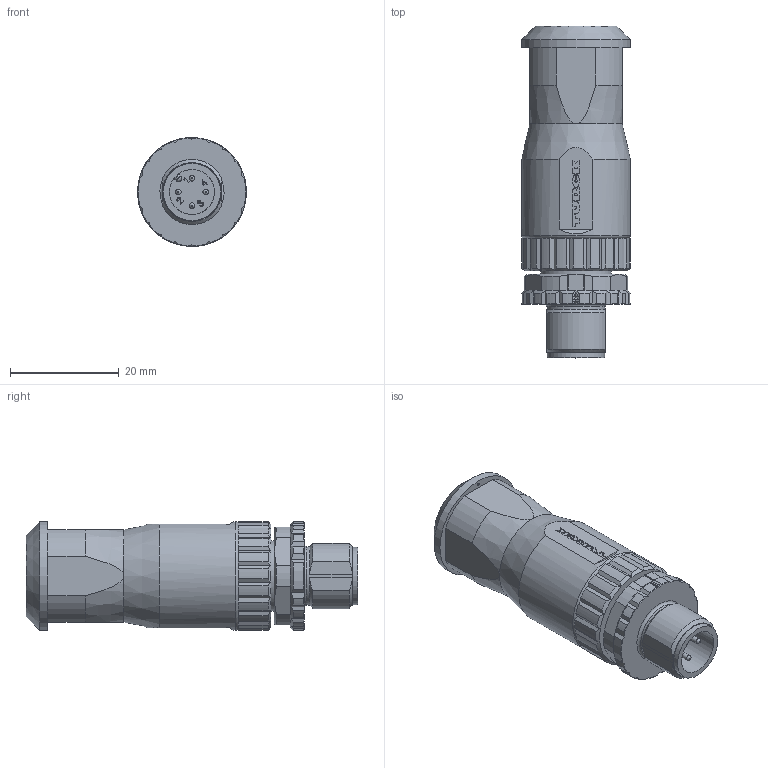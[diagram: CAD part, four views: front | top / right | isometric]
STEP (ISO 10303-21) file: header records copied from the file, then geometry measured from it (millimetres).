
FILE_DESCRIPTION(/* description */ (''),/* implementation_level */ '2;1');
FILE_NAME(/* name */ 'K:\Step\43\43K1A3924_4pol_TURCK_.stp',/* time_stamp */ '2018-01-11T07:46:24+01:00',/* author */ ('RuthChristen'),/* organization */ (''),/* preprocessor_version */ 'ST-DEVELOPER v16.13',/* originating_system */ 'Autodesk Inventor 2018',/* authorisation */ '');
FILE_SCHEMA (('AUTOMOTIVE_DESIGN { 1 0 10303 214 3 1 1 }'));
Length unit declared in the file: millimetre
Products named in the file (1): Bauteil1
Bounding box: 20 x 61 x 20 mm (x, y, z)
Volume: 14835.3 mm3; surface area: 4754.4 mm2
Topology: 1 solids, 1 shells, 393 faces, 1080 edges, 713 vertices
Faces by surface type: plane 195, cylinder 93, torus 45, bspline 39, cone 21
Full cylindrical faces by diameter (mm): 0.5 x1, 1.01 x4, 8.3 x1, 10.5 x1, 10.8 x1, 13 x1, 20 x2
Entity records: 13638 total; most frequent: CARTESIAN_POINT 3726, ORIENTED_EDGE 2104, DIRECTION 1830, EDGE_CURVE 1052, VERTEX_POINT 704, AXIS2_PLACEMENT_3D 660, LINE 510, VECTOR 510
